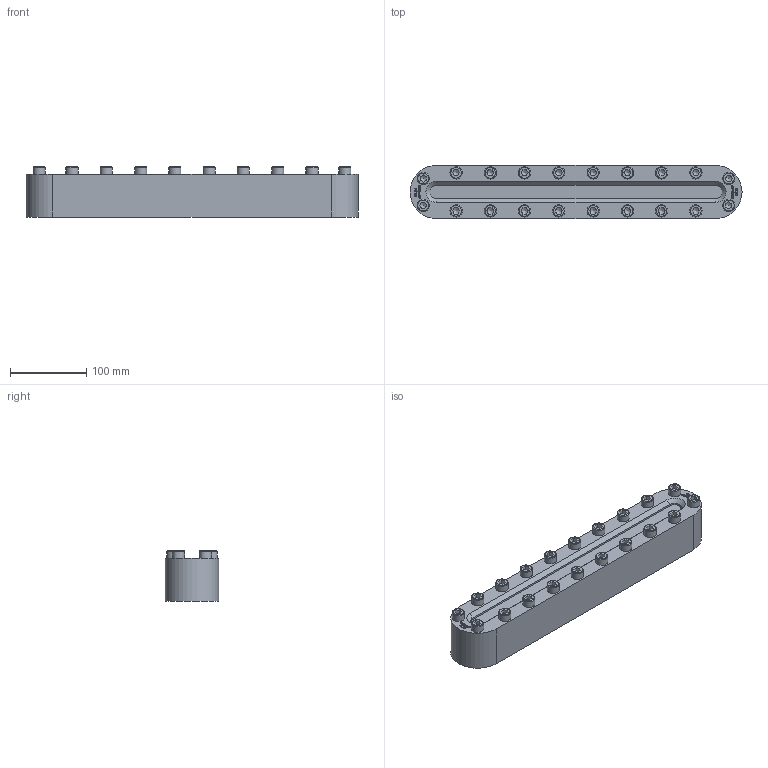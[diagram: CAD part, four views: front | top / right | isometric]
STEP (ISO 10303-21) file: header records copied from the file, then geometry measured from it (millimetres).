
FILE_DESCRIPTION(/* description */ (''),/* implementation_level */ '2;1');
FILE_NAME(/* name */ 'W:\Konstruktion_ACI\337\STEP\ACI-337-436-25.stp',/* time_stamp */ '2022-03-22T08:01:37+01:00',/* author */ ('Travnicek'),/* organization */ (''),/* preprocessor_version */ 'ST-DEVELOPER v16.1',/* originating_system */ 'Autodesk Inventor 2016',/* authorisation */ '');
FILE_SCHEMA (('AUTOMOTIVE_DESIGN { 1 0 10303 214 3 1 1 }'));
Length unit declared in the file: centimetre
Products named in the file (1): 337
Bounding box: 436 x 70 x 65.9 mm (x, y, z)
Volume: 1484688.2 mm3; surface area: 144668.6 mm2
Topology: 1 solids, 1 shells, 640 faces, 1696 edges, 1116 vertices
Faces by surface type: plane 366, bspline 206, cylinder 26, cone 22, torus 20
Full cylindrical faces by diameter (mm): 16 x20
Entity records: 20727 total; most frequent: CARTESIAN_POINT 6271, ORIENTED_EDGE 3232, DIRECTION 2028, EDGE_CURVE 1616, VERTEX_POINT 1096, LINE 1010, VECTOR 1010, EDGE_LOOP 758
